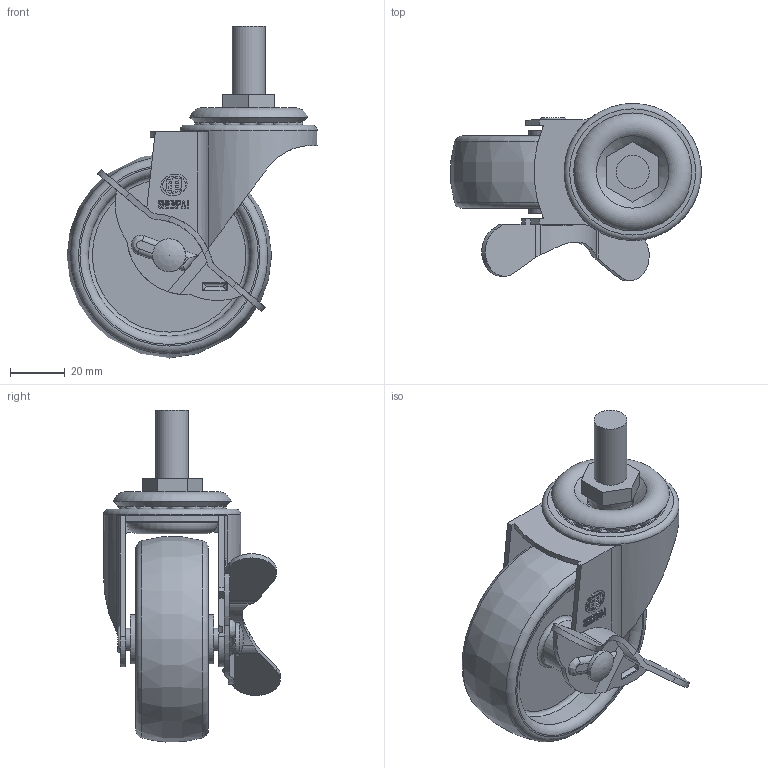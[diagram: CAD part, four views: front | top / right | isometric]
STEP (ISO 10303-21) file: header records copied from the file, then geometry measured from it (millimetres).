
FILE_DESCRIPTION(/* description */ (''),/* implementation_level */ '2;1');
FILE_NAME(/* name */ '10A26_3_F.stp',/* time_stamp */ '2022-10-06T13:50:06+08:00',/* author */ (''),/* organization */ (''),/* preprocessor_version */ 'ST-DEVELOPER v14',/* originating_system */ 'SIEMENS PLM Software NX 8.0',/* authorisation */ '');
FILE_SCHEMA (('AUTOMOTIVE_DESIGN { 1 0 10303 214 3 1 1 1 }'));
Length unit declared in the file: millimetre
Products named in the file (1): 10A26_3_F
Bounding box: 91.32 x 64.49 x 121.04 mm (x, y, z)
Volume: 86196.3 mm3; surface area: 47209.9 mm2
Topology: 1 solids, 1 shells, 421 faces, 1189 edges, 783 vertices
Faces by surface type: plane 250, cylinder 89, sphere 36, torus 22, bspline 15, cone 9
Full cylindrical faces by diameter (mm): 6.4 x1, 8 x2, 8.2 x1, 8.3 x2, 10 x1, 10.2 x2, 12 x2, 13 x1, 18 x2, 21 x1, 28 x1, 30 x1, 46 x1, 50 x1, 59 x2
Entity records: 16462 total; most frequent: CARTESIAN_POINT 6778, ORIENTED_EDGE 2062, DIRECTION 1760, EDGE_CURVE 1031, VERTEX_POINT 716, AXIS2_PLACEMENT_3D 672, EDGE_LOOP 570, ADVANCED_FACE 421
